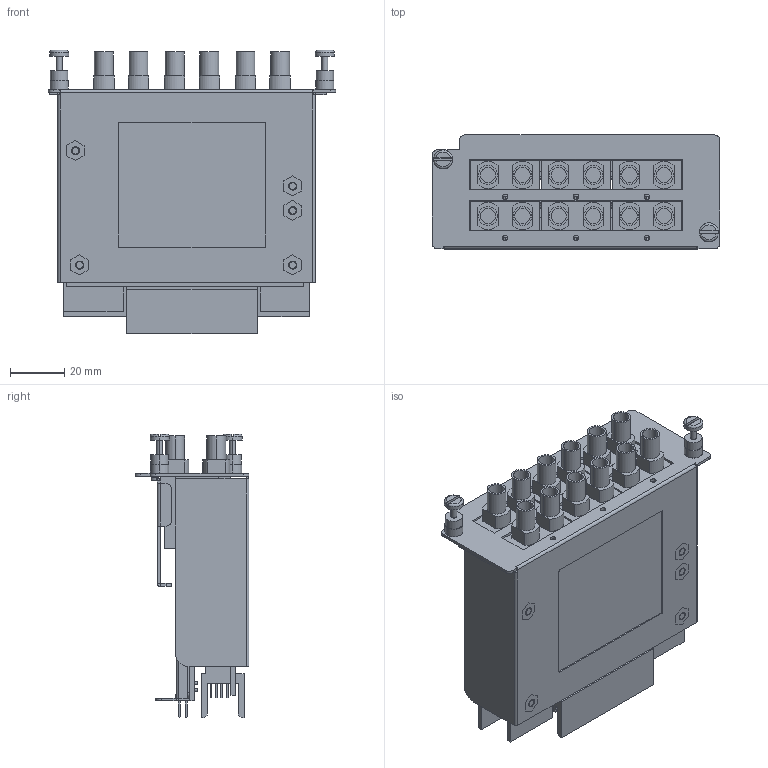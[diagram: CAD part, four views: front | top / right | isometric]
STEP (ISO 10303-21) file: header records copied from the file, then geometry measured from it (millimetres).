
FILE_DESCRIPTION((''),'2;1');
FILE_NAME('IM-6700_6MST','2013-06-23T',('Vincent_Huang'),(''),'PRO/ENGINEER BY PARAMETRIC TECHNOLOGY CORPORATION, 2004320','PRO/ENGINEER BY PARAMETRIC TECHNOLOGY CORPORATION, 2004320','');
FILE_SCHEMA(('CONFIG_CONTROL_DESIGN'));
Products named in the file (1): IM-6700_6MST
Bounding box: 105.6 x 41.8 x 104.1 mm (x, y, z)
Surface area: 197026.4 mm2 (no closed solid volume)
Topology: 0 solids, 69 shells, 2775 faces, 6744 edges, 4436 vertices
Faces by surface type: plane 2182, cylinder 521, cone 68, torus 4
Entity records: 80866 total; most frequent: CARTESIAN_POINT 13995, DIRECTION 13592, ORIENTED_EDGE 13468, EDGE_CURVE 6744, VECTOR 5430, LINE 5430, VERTEX_POINT 4436, AXIS2_PLACEMENT_3D 4081
